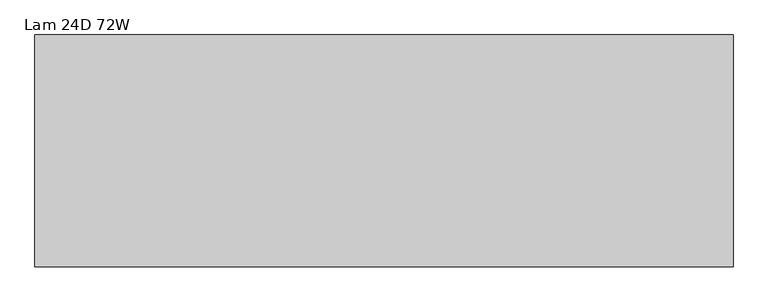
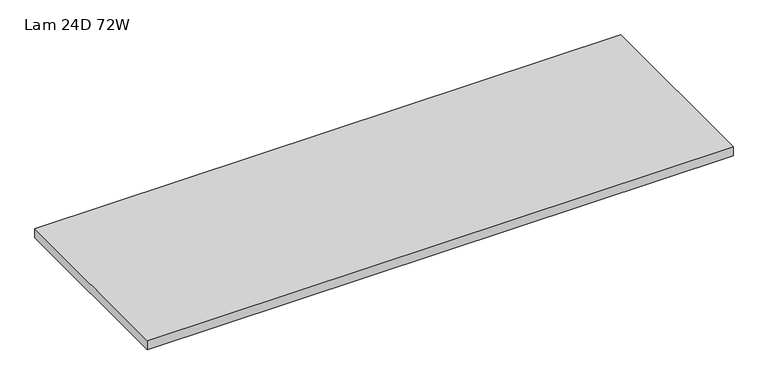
"""IFC4 building model written with IfcOpenShell, lengths in millimetres: furniture geometry, HermanMiller_CoStruc_C4700_RectangularWorkTableSurface : Lam 24D 72W."""

from ifc_helpers import new_model, si_unit, frame, origin, place, context, project, spatial, polyline, outline, extrude, source, transform, mapped, element, save


def lam_24d_72w_e893b95b(model_context):
    return source(origin(), model_context, "Body", "SweptSolid", [
        extrude(outline(polyline([(1828.7999999, -3.0467299), (1828.7999999, -609.6), (3.1750001, -609.6), (3.1750001, -3.0467299), (1828.7999999, -3.0467299)])), frame((0.0, 0.0, 884.428), z_axis=(0.0, 0.0, 1.0), x_axis=(1.0, 0.0, 0.0)), (0.0, 0.0, 1.0), 29.972),
    ])


if __name__ == "__main__":
    model = new_model("IFC4")
    model_context = context("Model", 3, world=origin())
    ifc_project = project(units=[si_unit("LENGTHUNIT", "METRE", prefix="MILLI")], contexts=[model_context])
    site = spatial("IfcSite", under=ifc_project)
    building = spatial("IfcBuilding", under=site)
    placement = place(None, origin())
    lam_24d_72w_shape = lam_24d_72w_e893b95b(model_context)
    element("IfcFurniture", 1, ObjectType="HermanMiller_CoStruc_C4700_RectangularWorkTableSurface : Lam 24D 72W", at=placement, inside=building, context=model_context, shape_type="MappedRepresentation", body=[
        mapped(lam_24d_72w_shape, transform((0.0, 0.0, 0.0), x_axis=(1.0, 0.0, 0.0), y_axis=(0.0, 1.0, 0.0), z_axis=(0.0, 0.0, 1.0))),
    ])
    save(model, "model.ifc")
